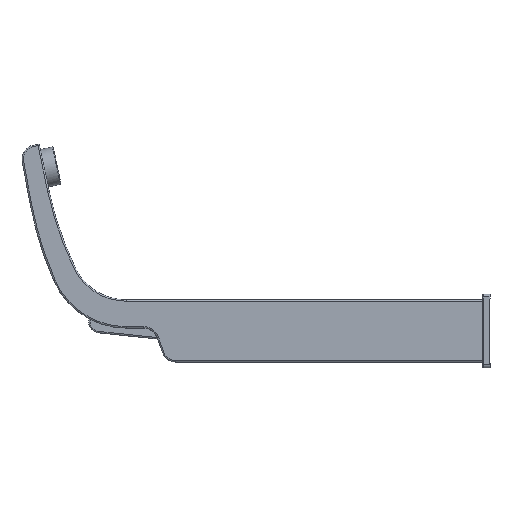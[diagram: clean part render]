
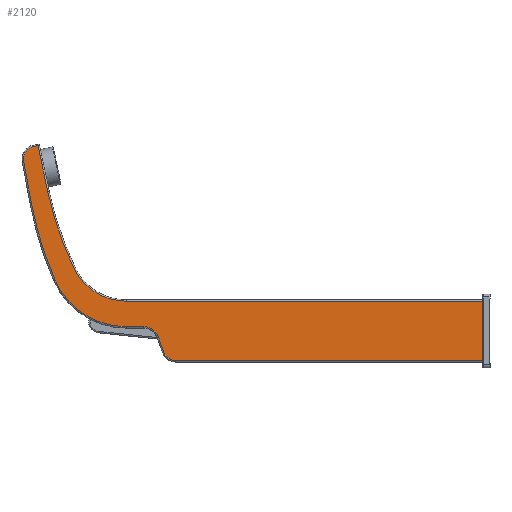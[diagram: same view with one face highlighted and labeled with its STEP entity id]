
A CAD part, left-side view. The second image highlights one B-rep face of the part: STEP entity #2120.
In plain terms, the highlighted planar face has unit normal (-1, 0, 0).
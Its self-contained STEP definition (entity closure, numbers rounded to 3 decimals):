
#128=LINE('',#14456,#232);
#167=LINE('',#14652,#271);
#168=LINE('',#14658,#272);
#169=LINE('',#14666,#273);
#170=LINE('',#14678,#274);
#171=LINE('',#14686,#275);
#172=LINE('',#14692,#276);
#174=LINE('',#14696,#278);
#232=VECTOR('',#2833,42.);
#271=VECTOR('',#3042,32.939);
#272=VECTOR('',#3051,3.258);
#273=VECTOR('',#3062,29.375);
#274=VECTOR('',#3079,12.263);
#275=VECTOR('',#3090,11.536);
#276=VECTOR('',#3099,66.998);
#278=VECTOR('',#3105,150.);
#483=CIRCLE('',#2395,41.);
#485=CIRCLE('',#2398,241.);
#490=CIRCLE('',#2407,9.);
#493=CIRCLE('',#2412,253.);
#495=CIRCLE('',#2415,55.);
#498=CIRCLE('',#2420,11.);
#501=CIRCLE('',#2425,9.);
#542=PLANE('',#2429);
#677=FACE_OUTER_BOUND('',#824,.T.);
#824=EDGE_LOOP('',(#1951,#1952,#1953,#1954,#1955,#1956,#1957,#1958,#1959,
#1960,#1961,#1962,#1963,#1964,#1965));
#989=VERTEX_POINT('',#14453);
#990=VERTEX_POINT('',#14455);
#1043=VERTEX_POINT('',#14640);
#1044=VERTEX_POINT('',#14642);
#1045=VERTEX_POINT('',#14646);
#1046=VERTEX_POINT('',#14650);
#1047=VERTEX_POINT('',#14656);
#1048=VERTEX_POINT('',#14660);
#1049=VERTEX_POINT('',#14664);
#1050=VERTEX_POINT('',#14668);
#1051=VERTEX_POINT('',#14672);
#1052=VERTEX_POINT('',#14676);
#1053=VERTEX_POINT('',#14680);
#1054=VERTEX_POINT('',#14684);
#1055=VERTEX_POINT('',#14688);
#1245=EDGE_CURVE('',#989,#990,#128,.T.);
#1334=EDGE_CURVE('',#1044,#1043,#483,.T.);
#1336=EDGE_CURVE('',#1045,#1044,#485,.T.);
#1338=EDGE_CURVE('',#1046,#1045,#167,.T.);
#1341=EDGE_CURVE('',#1047,#1046,#168,.T.);
#1343=EDGE_CURVE('',#1048,#1047,#490,.T.);
#1345=EDGE_CURVE('',#1049,#1048,#169,.T.);
#1347=EDGE_CURVE('',#1050,#1049,#493,.T.);
#1349=EDGE_CURVE('',#1051,#1050,#495,.T.);
#1351=EDGE_CURVE('',#1052,#1051,#170,.T.);
#1353=EDGE_CURVE('',#1053,#1052,#498,.T.);
#1355=EDGE_CURVE('',#1054,#1053,#171,.T.);
#1357=EDGE_CURVE('',#1055,#1054,#501,.T.);
#1358=EDGE_CURVE('',#990,#1055,#172,.T.);
#1360=EDGE_CURVE('',#1043,#989,#174,.T.);
#1951=ORIENTED_EDGE('',*,*,#1355,.F.);
#1952=ORIENTED_EDGE('',*,*,#1357,.F.);
#1953=ORIENTED_EDGE('',*,*,#1358,.F.);
#1954=ORIENTED_EDGE('',*,*,#1245,.F.);
#1955=ORIENTED_EDGE('',*,*,#1360,.F.);
#1956=ORIENTED_EDGE('',*,*,#1334,.F.);
#1957=ORIENTED_EDGE('',*,*,#1336,.F.);
#1958=ORIENTED_EDGE('',*,*,#1338,.F.);
#1959=ORIENTED_EDGE('',*,*,#1341,.F.);
#1960=ORIENTED_EDGE('',*,*,#1343,.F.);
#1961=ORIENTED_EDGE('',*,*,#1345,.F.);
#1962=ORIENTED_EDGE('',*,*,#1347,.F.);
#1963=ORIENTED_EDGE('',*,*,#1349,.F.);
#1964=ORIENTED_EDGE('',*,*,#1351,.F.);
#1965=ORIENTED_EDGE('',*,*,#1353,.F.);
#2120=ADVANCED_FACE('',(#677),#542,.F.);
#2395=AXIS2_PLACEMENT_3D('',#14644,#3030,#3031);
#2398=AXIS2_PLACEMENT_3D('',#14648,#3036,#3037);
#2407=AXIS2_PLACEMENT_3D('',#14662,#3056,#3057);
#2412=AXIS2_PLACEMENT_3D('',#14670,#3067,#3068);
#2415=AXIS2_PLACEMENT_3D('',#14674,#3073,#3074);
#2420=AXIS2_PLACEMENT_3D('',#14682,#3084,#3085);
#2425=AXIS2_PLACEMENT_3D('',#14690,#3095,#3096);
#2429=AXIS2_PLACEMENT_3D('',#14697,#3106,#3107);
#2833=DIRECTION('',(0.,0.,-1.));
#3030=DIRECTION('center_axis',(-1.,0.,0.));
#3031=DIRECTION('ref_axis',(0.,0.901,-0.434));
#3036=DIRECTION('center_axis',(-1.,0.,0.));
#3037=DIRECTION('ref_axis',(0.,0.978,-0.208));
#3042=DIRECTION('',(0.,-0.208,-0.978));
#3051=DIRECTION('',(0.,-0.978,0.208));
#3056=DIRECTION('center_axis',(1.,0.,0.));
#3057=DIRECTION('ref_axis',(0.,0.,-1.));
#3062=DIRECTION('',(0.,0.182,0.983));
#3067=DIRECTION('center_axis',(1.,0.,0.));
#3068=DIRECTION('ref_axis',(0.,0.,-1.));
#3073=DIRECTION('center_axis',(1.,0.,0.));
#3074=DIRECTION('ref_axis',(0.,0.,-1.));
#3079=DIRECTION('',(0.,1.,0.));
#3084=DIRECTION('center_axis',(-1.,0.,0.));
#3085=DIRECTION('ref_axis',(0.,-0.94,0.342));
#3090=DIRECTION('',(0.,0.342,0.94));
#3095=DIRECTION('center_axis',(1.,0.,0.));
#3096=DIRECTION('ref_axis',(0.,0.,-1.));
#3099=DIRECTION('',(0.,1.,0.));
#3105=DIRECTION('',(0.,-1.,0.));
#3106=DIRECTION('center_axis',(1.,0.,0.));
#3107=DIRECTION('ref_axis',(0.,0.,-1.));
#14453=CARTESIAN_POINT('',(-22.,-150.,21.));
#14455=CARTESIAN_POINT('',(-22.,-150.,-21.));
#14456=CARTESIAN_POINT('',(-22.,-150.,21.));
#14640=CARTESIAN_POINT('',(-22.,102.,21.));
#14642=CARTESIAN_POINT('',(-22.,138.936,44.202));
#14644=CARTESIAN_POINT('Origin',(-22.,102.,62.));
#14646=CARTESIAN_POINT('',(-22.,157.56,98.713));
#14648=CARTESIAN_POINT('Origin',(-22.,-78.173,148.819));
#14650=CARTESIAN_POINT('',(-22.,164.409,130.932));
#14652=CARTESIAN_POINT('',(-22.,164.409,130.932));
#14656=CARTESIAN_POINT('',(-22.,167.596,130.254));
#14658=CARTESIAN_POINT('',(-22.,167.596,130.254));
#14660=CARTESIAN_POINT('',(-22.,174.574,119.811));
#14662=CARTESIAN_POINT('Origin',(-22.,165.725,121.451));
#14664=CARTESIAN_POINT('',(-22.,169.221,90.928));
#14666=CARTESIAN_POINT('',(-22.,169.221,90.928));
#14668=CARTESIAN_POINT('',(-22.,152.428,36.046));
#14670=CARTESIAN_POINT('Origin',(-22.,-79.543,137.033));
#14672=CARTESIAN_POINT('',(-22.,102.,3.));
#14674=CARTESIAN_POINT('Origin',(-22.,102.,58.));
#14676=CARTESIAN_POINT('',(-22.,89.737,3.));
#14678=CARTESIAN_POINT('',(-22.,89.737,3.));
#14680=CARTESIAN_POINT('',(-22.,79.401,-4.238));
#14682=CARTESIAN_POINT('Origin',(-22.,89.737,-8.));
#14684=CARTESIAN_POINT('',(-22.,75.455,-15.078));
#14686=CARTESIAN_POINT('',(-22.,75.455,-15.078));
#14688=CARTESIAN_POINT('',(-22.,66.998,-21.));
#14690=CARTESIAN_POINT('Origin',(-22.,66.998,-12.));
#14692=CARTESIAN_POINT('',(-22.,0.,-21.));
#14696=CARTESIAN_POINT('',(-22.,0.,21.));
#14697=CARTESIAN_POINT('Origin',(-22.,0.,55.422));
